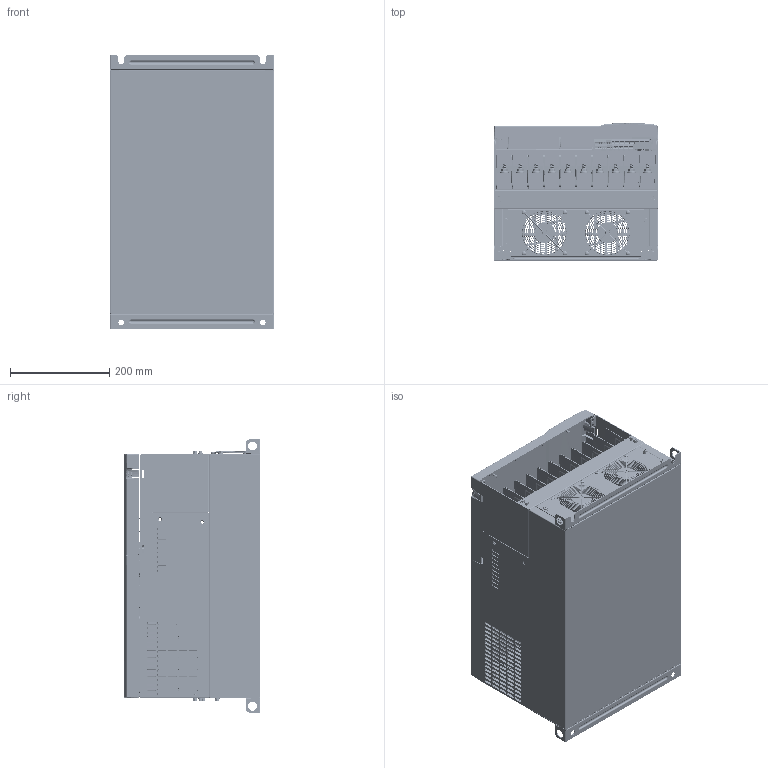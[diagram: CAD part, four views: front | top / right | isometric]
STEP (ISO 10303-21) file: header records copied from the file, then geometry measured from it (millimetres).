
FILE_DESCRIPTION((''),'2;1');
FILE_NAME('DELTA_IA-MDS_VFD-C-FRAME-D1_D-3_ASM','2021-02-21T18:25:23',('KEN.KL.LIU'),(''),'CREO PARAMETRIC BY PTC INC, 2018500','CREO PARAMETRIC BY PTC INC, 2018500','');
FILE_SCHEMA(('AUTOMOTIVE_DESIGN { 1 0 10303 214 1 1 1 1 }'));
Products named in the file (97): PRT0008_1; PRT0009_1; PRT0010_1; PRT0039_1; ASM0004_ASM_ASM_1_ASM; PRT0040_1; PRT0041_1; PRT0042_1; PRT0043_1; PRT0044_1; PRT0045_1; PRT0046_1; PRT0047_1; ASM0006_ASM_ASM_1_ASM; ASM0005_ASM_ASM_1_ASM; PRT0048_1; ASM0007_ASM_ASM_1_ASM; PRT0049_1; PRT0050_1; PRT0051_1; PRT0052_1; PRT0053_1; PRT0054_1; PRT0055_1; PRT0056_1; PRT0057_1; PRT0058_1; PRT0059_1; PRT0060_1; ASM0009_ASM_ASM_1_ASM; PRT0061_1; ASM0008_ASM_ASM_1_ASM; PRT0062_1; PRT0063_1; PRT0064_1; ASM0003_ASM_ASM_1_ASM; PRT0065_1; PRT0066_1; ASM0012_ASM_ASM_1_ASM; PRT0067_1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
Assembly tree (149 placements, depth 12):
  DELTA_IA-MDS_VFD-C-FRAME-D1_D-3_ASM
    DELTA_IA-MDS_VFD-C-FRAME-D1_D_1_ASM
      ASM0002_ASM_ASM_1_ASM
        PRT0008_1
        ASM0003_ASM_ASM_1_ASM
          ASM0004_ASM_ASM_1_ASM
            PRT0009_1
            PRT0010_1
            PRT0039_1
          ASM0005_ASM_ASM_1_ASM
            ASM0006_ASM_ASM_1_ASM
              PRT0040_1
              PRT0041_1
              PRT0042_1
              PRT0043_1
              PRT0044_1
              PRT0045_1
              PRT0046_1
              PRT0047_1
          ASM0007_ASM_ASM_1_ASM
            PRT0048_1
          PRT0049_1
          ASM0008_ASM_ASM_1_ASM
            PRT0050_1
            PRT0051_1  x2
            ASM0009_ASM_ASM_1_ASM  x2
              PRT0052_1
              PRT0053_1
              PRT0054_1
              PRT0055_1
              PRT0056_1
              PRT0057_1
              PRT0058_1
              PRT0059_1
              PRT0060_1
            PRT0061_1  x8
          PRT0062_1
          PRT0063_1
          PRT0064_1  x24
        ASM0010_ASM_ASM_1_ASM
          ASM0011_ASM_ASM_1_ASM  x10
            ASM0012_ASM_ASM_1_ASM
              PRT0065_1
              PRT0066_1
            PRT0067_1
            PRT0068_1
        ASM0013_ASM_ASM_1_ASM
          PRT0069_1
        PRT0070_1  x10
        PRT0071_1
        ASM0014_ASM_ASM_1_ASM
          PRT0072_1
          ASM0015_ASM_ASM_1_ASM
            PRT0073_2
          ASM0016_ASM_ASM_1_ASM
            PRT0074_1
          ASM0017_ASM_ASM_1_ASM
            PRT0076_1  x2
            PRT0099_2_1
        ASM0018_ASM_ASM_1_ASM
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Bounding box: 330.25 x 275.4 x 550 mm (x, y, z)
Volume: 2424151.8 mm3; surface area: 2624572.5 mm2
Topology: 139 solids, 240 shells, 14898 faces, 40800 edges, 26555 vertices
Faces by surface type: plane 8146, cylinder 4016, bspline 1240, cone 538, torus 426, extrusion 384, sphere 148
Entity records: 385755 total; most frequent: CARTESIAN_POINT 120274, ORIENTED_EDGE 48651, DIRECTION 43208, EDGE_CURVE 24331, VECTOR 16694, LINE 16310, VERTEX_POINT 15713, AXIS2_PLACEMENT_3D 13129
